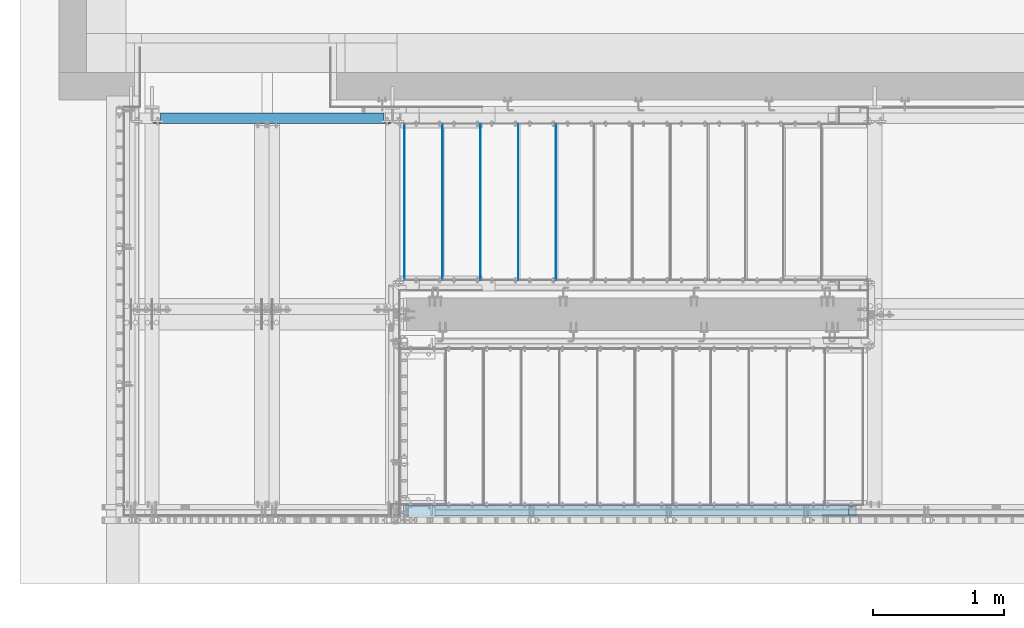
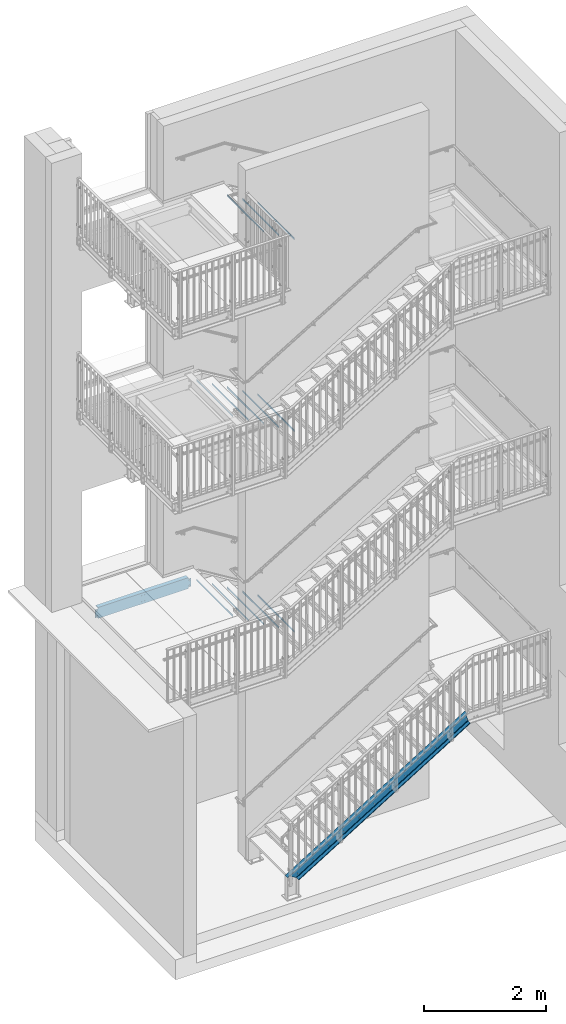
# One storey, part 30 of 410: 14 beams, 1 member, 35 openings.
"""IFC2X3 building model written with IfcOpenShell, lengths in millimetres."""

from ifc_helpers import new_model, entity, si_unit, converted_unit, point, frame, frame_2d, origin, origin_with_axes, origin_2d, origin_2d_with_axis, place, context, project, spatial, circle_curve, line_curve, trimmed, segment, composite_curve, rectangle, circle, u_section, outline, extrude, clip, halfspace, material, element, save


model = new_model("IFC2X3")

# Units and contexts
model_context = context("Model", 3, precision=1e-09, world=origin_with_axes())
ifc_project = project(units=[si_unit("LENGTHUNIT", "METRE", prefix="MILLI"), si_unit("AREAUNIT", "SQUARE_METRE"), si_unit("VOLUMEUNIT", "CUBIC_METRE"), converted_unit("PLANEANGLEUNIT", "DEGREE", entity("IfcPlaneAngleMeasure", 0.01745329), si_unit("PLANEANGLEUNIT", "RADIAN"), dimensions=[0, 0, 0, 0, 0, 0, 0])], contexts=[model_context])

# Site, building, storey
site_placement = place(None, origin_with_axes())
site = spatial("IfcSite", under=ifc_project, at=site_placement, Name="mKR Teilneubau & Sanierung BA1 - Ostfildern", CompositionType="ELEMENT")
building_placement = place(site_placement, origin_with_axes())
building = spatial("IfcBuilding", under=site, at=building_placement, Name="Struktur 1", CompositionType="ELEMENT")
storey_placement = place(building_placement, origin_with_axes())
storey = spatial("IfcBuildingStorey", under=building, at=storey_placement, Name="Default Storey", CompositionType="ELEMENT", Elevation=0.0)

# Beams
ifc_material = material(Name="S235JR")
for number, where, z_axis, x_axis in (
    (1, (-848.5, 18439.999999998, 7170.0), (0.0, 1.0, 0.0), (-1.0, 0.0, 0.0)),
    (2, (-558.5, 18439.999999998, 6995.0), (0.0, 1.0, 0.0), (-1.0, 0.0, 0.0)),
    (3, (-558.5, 18439.999999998, 3150.434783), (0.0, 1.0, 0.0), (-1.0, 0.0, 0.0)),
    (4, (-848.5, 18439.999999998, 3324.3478265), (0.0, 1.0, 0.0), (-1.0, 0.0, 0.0)),
    (5, (-1138.5, 18439.999999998, 3498.26087), (0.0, 1.0, 0.0), (-1.0, 0.0, 0.0)),
    (6, (-1428.5, 18439.999999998, 3672.1739135), (0.0, 1.0, 0.0), (-1.0, 0.0, 0.0)),
    (7, (-1718.5, 18439.999999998, 3846.086957), (0.0, 1.0, 0.0), (-1.0, 0.0, 0.0)),
    (8, (-558.5, 18439.999999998, -874.0), (0.0, 1.0, 0.0), (-1.0, 0.0, 0.0)),
    (9, (-848.5, 18439.999999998, -695.2), (0.0, 1.0, 0.0), (-1.0, 0.0, 0.0)),
    (10, (-1138.5, 18439.999999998, -516.4), (0.0, 1.0, 0.0), (-1.0, 0.0, 0.0)),
    (11, (-1428.5, 18439.999999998, -337.6), (0.0, 1.0, 0.0), (-1.0, 0.0, 0.0)),
    (12, (-1718.5, 18439.999999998, -158.8), (0.0, 1.0, 0.0), (-1.0, 0.0, 0.0)),
    (13, (-1138.5, 18439.999999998, 7345.0), (0.0, 1.0, 0.0), (-1.0, 0.0, 0.0)),
):
    element("IfcBeam", number, at=place(None, frame(where, z_axis=z_axis, x_axis=x_axis)), inside=storey, material=ifc_material, Name="-", ObjectType="-", context=model_context, shape_type="SweptSolid", body=[
        extrude(rectangle(XDim=3.0, YDim=40.0, at=origin_2d()), origin(), (0.0, 0.0, -1.0), 1200.0),
    ])

# Member, openings
member_placement = place(None, frame((1936.296714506, 15498.599999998, -2175.379342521), z_axis=(0.851214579, 0.0, 0.524817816), x_axis=(0.0, -1.0, 0.0)))
member = element("IfcMember", 14, at=member_placement, inside=storey, material=ifc_material, Name="-", ObjectType="-", context=model_context, shape_type="Clipping", body=[
    clip(clip(extrude(u_section(Depth=220.0, FlangeWidth=80.0, WebThickness=9.0, FlangeThickness=12.5, FilletRadius=12.5, EdgeRadius=6.0, FlangeSlope=4.574, at=frame_2d((18.6, 0.0))), origin(), (0.0, 0.0, -1.0), 4493.470065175), halfspace(frame((15498.599999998, -2591.759085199, 467.580855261), z_axis=(0.0, -0.272750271, -0.962084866), x_axis=(1.0, 0.0, 0.0)), True)), halfspace(frame((15498.599999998, -626.459299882, -4521.748255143), z_axis=(0.0, -0.487433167, 0.873160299), x_axis=(-1.0, 0.0, 0.0)), True)),
])
opening_1_placement = place(member_placement, frame((-21.9, 49.652632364, -3033.730112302), z_axis=(1.0, 0.0, 0.0), x_axis=(0.0, 0.524817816, 0.851214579)))
element("IfcOpeningElement", 15, at=opening_1_placement, cuts=member, ObjectType="Opening", context=model_context, shape_type="SweptSolid", body=[
    extrude(circle(Radius=7.001, at=origin_2d_with_axis()), origin(), (0.0, 0.0, 1.0), 10.0),
])
opening_2_placement = place(member_placement, frame((-21.9, 49.652632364, -308.212884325), z_axis=(1.0, 0.0, 0.0), x_axis=(0.0, 0.524817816, 0.851214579)))
element("IfcOpeningElement", 16, at=opening_2_placement, cuts=member, ObjectType="Opening", context=model_context, shape_type="SweptSolid", body=[
    extrude(circle(Radius=7.001, at=origin_2d_with_axis()), origin(), (0.0, 0.0, 1.0), 10.0),
])
opening_3_placement = place(member_placement, frame((-21.9, -44.814574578, -1483.500469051), z_axis=(1.0, 0.0, 0.0), x_axis=(0.0, 0.524817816, 0.851214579)))
element("IfcOpeningElement", 17, at=opening_3_placement, cuts=member, ObjectType="Opening", context=model_context, shape_type="SweptSolid", body=[
    extrude(circle(Radius=7.001, at=origin_2d_with_axis()), origin(), (0.0, 0.0, 1.0), 10.0),
])
opening_4_placement = place(member_placement, frame((-21.9, -44.814574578, -3868.328043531), z_axis=(1.0, 0.0, 0.0), x_axis=(0.0, 0.524817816, 0.851214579)))
element("IfcOpeningElement", 18, at=opening_4_placement, cuts=member, ObjectType="Opening", context=model_context, shape_type="SweptSolid", body=[
    extrude(circle(Radius=7.001, at=origin_2d_with_axis()), origin(), (0.0, 0.0, 1.0), 10.0),
])
opening_5_placement = place(member_placement, frame((-21.9, 49.652632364, -3715.109419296), z_axis=(1.0, 0.0, 0.0), x_axis=(0.0, 0.524817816, 0.851214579)))
element("IfcOpeningElement", 19, at=opening_5_placement, cuts=member, ObjectType="Opening", context=model_context, shape_type="SweptSolid", body=[
    extrude(circle(Radius=7.001, at=origin_2d_with_axis()), origin(), (0.0, 0.0, 1.0), 10.0),
])
opening_6_placement = place(member_placement, frame((-21.9, -44.814574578, -3527.638390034), z_axis=(1.0, 0.0, 0.0), x_axis=(0.0, 0.524817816, 0.851214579)))
element("IfcOpeningElement", 20, at=opening_6_placement, cuts=member, ObjectType="Opening", context=model_context, shape_type="SweptSolid", body=[
    extrude(circle(Radius=7.001, at=origin_2d_with_axis()), origin(), (0.0, 0.0, 1.0), 10.0),
])
opening_7_placement = place(member_placement, frame((-21.9, 49.652632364, -3374.419765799), z_axis=(1.0, 0.0, 0.0), x_axis=(0.0, 0.524817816, 0.851214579)))
element("IfcOpeningElement", 21, at=opening_7_placement, cuts=member, ObjectType="Opening", context=model_context, shape_type="SweptSolid", body=[
    extrude(circle(Radius=7.001, at=origin_2d_with_axis()), origin(), (0.0, 0.0, 1.0), 10.0),
])
opening_8_placement = place(member_placement, frame((-21.9, -44.814574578, -1142.810815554), z_axis=(1.0, 0.0, 0.0), x_axis=(0.0, 0.524817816, 0.851214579)))
element("IfcOpeningElement", 22, at=opening_8_placement, cuts=member, ObjectType="Opening", context=model_context, shape_type="SweptSolid", body=[
    extrude(circle(Radius=7.001, at=origin_2d_with_axis()), origin(), (0.0, 0.0, 1.0), 10.0),
])
opening_9_placement = place(member_placement, frame((-21.9, -44.814574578, -3186.948736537), z_axis=(1.0, 0.0, 0.0), x_axis=(0.0, 0.524817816, 0.851214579)))
element("IfcOpeningElement", 23, at=opening_9_placement, cuts=member, ObjectType="Opening", context=model_context, shape_type="SweptSolid", body=[
    extrude(circle(Radius=7.001, at=origin_2d_with_axis()), origin(), (0.0, 0.0, 1.0), 10.0),
])
opening_10_placement = place(member_placement, frame((-21.9, 49.652632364, -1330.281844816), z_axis=(1.0, 0.0, 0.0), x_axis=(0.0, 0.524817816, 0.851214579)))
element("IfcOpeningElement", 24, at=opening_10_placement, cuts=member, ObjectType="Opening", context=model_context, shape_type="SweptSolid", body=[
    extrude(circle(Radius=7.001, at=origin_2d_with_axis()), origin(), (0.0, 0.0, 1.0), 10.0),
])
opening_11_placement = place(member_placement, frame((-21.9, 49.652632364, -989.592191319), z_axis=(1.0, 0.0, 0.0), x_axis=(0.0, 0.524817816, 0.851214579)))
element("IfcOpeningElement", 25, at=opening_11_placement, cuts=member, ObjectType="Opening", context=model_context, shape_type="SweptSolid", body=[
    extrude(circle(Radius=7.001, at=origin_2d_with_axis()), origin(), (0.0, 0.0, 1.0), 10.0),
])
opening_12_placement = place(member_placement, frame((-21.9, -44.814574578, -802.121162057), z_axis=(1.0, 0.0, 0.0), x_axis=(0.0, 0.524817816, 0.851214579)))
element("IfcOpeningElement", 26, at=opening_12_placement, cuts=member, ObjectType="Opening", context=model_context, shape_type="SweptSolid", body=[
    extrude(circle(Radius=7.001, at=origin_2d_with_axis()), origin(), (0.0, 0.0, 1.0), 10.0),
])
opening_13_placement = place(member_placement, frame((-21.9, 49.652632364, -4055.799072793), z_axis=(1.0, 0.0, 0.0), x_axis=(0.0, 0.524817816, 0.851214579)))
element("IfcOpeningElement", 27, at=opening_13_placement, cuts=member, ObjectType="Opening", context=model_context, shape_type="SweptSolid", body=[
    extrude(circle(Radius=7.001, at=origin_2d_with_axis()), origin(), (0.0, 0.0, 1.0), 10.0),
])
opening_14_placement = place(member_placement, frame((-21.9, 49.652632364, -648.902537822), z_axis=(1.0, 0.0, 0.0), x_axis=(0.0, 0.524817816, 0.851214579)))
element("IfcOpeningElement", 28, at=opening_14_placement, cuts=member, ObjectType="Opening", context=model_context, shape_type="SweptSolid", body=[
    extrude(circle(Radius=7.001, at=origin_2d_with_axis()), origin(), (0.0, 0.0, 1.0), 10.0),
])
opening_15_placement = place(member_placement, frame((-21.9, -44.814574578, -461.43150856), z_axis=(1.0, 0.0, 0.0), x_axis=(0.0, 0.524817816, 0.851214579)))
element("IfcOpeningElement", 29, at=opening_15_placement, cuts=member, ObjectType="Opening", context=model_context, shape_type="SweptSolid", body=[
    extrude(circle(Radius=7.001, at=origin_2d_with_axis()), origin(), (0.0, 0.0, 1.0), 10.0),
])
opening_16_placement = place(member_placement, frame((-21.9, 49.652632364, -2352.350805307), z_axis=(1.0, 0.0, 0.0), x_axis=(0.0, 0.524817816, 0.851214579)))
element("IfcOpeningElement", 30, at=opening_16_placement, cuts=member, ObjectType="Opening", context=model_context, shape_type="SweptSolid", body=[
    extrude(circle(Radius=7.001, at=origin_2d_with_axis()), origin(), (0.0, 0.0, 1.0), 10.0),
])
opening_17_placement = place(member_placement, frame((-21.9, -44.814574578, -2164.879776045), z_axis=(1.0, 0.0, 0.0), x_axis=(0.0, 0.524817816, 0.851214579)))
element("IfcOpeningElement", 31, at=opening_17_placement, cuts=member, ObjectType="Opening", context=model_context, shape_type="SweptSolid", body=[
    extrude(circle(Radius=7.001, at=origin_2d_with_axis()), origin(), (0.0, 0.0, 1.0), 10.0),
])
opening_18_placement = place(member_placement, frame((-21.9, -44.814574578, -2846.25908304), z_axis=(1.0, 0.0, 0.0), x_axis=(0.0, 0.524817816, 0.851214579)))
element("IfcOpeningElement", 32, at=opening_18_placement, cuts=member, ObjectType="Opening", context=model_context, shape_type="SweptSolid", body=[
    extrude(circle(Radius=7.001, at=origin_2d_with_axis()), origin(), (0.0, 0.0, 1.0), 10.0),
])
opening_19_placement = place(member_placement, frame((-21.9, -44.814574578, -2505.569429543), z_axis=(1.0, 0.0, 0.0), x_axis=(0.0, 0.524817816, 0.851214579)))
element("IfcOpeningElement", 33, at=opening_19_placement, cuts=member, ObjectType="Opening", context=model_context, shape_type="SweptSolid", body=[
    extrude(circle(Radius=7.001, at=origin_2d_with_axis()), origin(), (0.0, 0.0, 1.0), 10.0),
])
opening_20_placement = place(member_placement, frame((-21.9, 49.652632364, -2693.040458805), z_axis=(1.0, 0.0, 0.0), x_axis=(0.0, 0.524817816, 0.851214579)))
element("IfcOpeningElement", 34, at=opening_20_placement, cuts=member, ObjectType="Opening", context=model_context, shape_type="SweptSolid", body=[
    extrude(circle(Radius=7.001, at=origin_2d_with_axis()), origin(), (0.0, 0.0, 1.0), 10.0),
])
opening_21_placement = place(member_placement, frame((-21.9, 49.652632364, -2011.66115181), z_axis=(1.0, 0.0, 0.0), x_axis=(0.0, 0.524817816, 0.851214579)))
element("IfcOpeningElement", 35, at=opening_21_placement, cuts=member, ObjectType="Opening", context=model_context, shape_type="SweptSolid", body=[
    extrude(circle(Radius=7.001, at=origin_2d_with_axis()), origin(), (0.0, 0.0, 1.0), 10.0),
])
opening_22_placement = place(member_placement, frame((-21.9, -44.814574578, -1824.190122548), z_axis=(1.0, 0.0, 0.0), x_axis=(0.0, 0.524817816, 0.851214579)))
element("IfcOpeningElement", 36, at=opening_22_placement, cuts=member, ObjectType="Opening", context=model_context, shape_type="SweptSolid", body=[
    extrude(circle(Radius=7.001, at=origin_2d_with_axis()), origin(), (0.0, 0.0, 1.0), 10.0),
])
opening_23_placement = place(member_placement, frame((-21.9, 49.652632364, -1670.971498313), z_axis=(1.0, 0.0, 0.0), x_axis=(0.0, 0.524817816, 0.851214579)))
element("IfcOpeningElement", 37, at=opening_23_placement, cuts=member, ObjectType="Opening", context=model_context, shape_type="SweptSolid", body=[
    extrude(circle(Radius=7.001, at=origin_2d_with_axis()), origin(), (0.0, 0.0, 1.0), 10.0),
])

# Beam, openings
beam_placement = place(None, frame((-1595.901532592, 18461.399999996, -170.0), z_axis=(1.0, 0.0, 0.0), x_axis=(0.0, 1.0, 0.0)))
beam = element("IfcBeam", 38, at=beam_placement, inside=storey, material=ifc_material, Name="-", ObjectType="-", context=model_context, shape_type="Clipping", body=[
    clip(extrude(u_section(Depth=220.0, FlangeWidth=80.0, WebThickness=9.0, FlangeThickness=12.5, FilletRadius=12.5, EdgeRadius=6.0, FlangeSlope=4.574, at=frame_2d((18.6, 0.0))), origin(), (0.0, 0.0, -1.0), 2041.145999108), halfspace(frame((-18461.399999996, 170.0, -227.047999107), z_axis=(0.0, 0.0, -1.0), x_axis=(-1.0, 0.0, 0.0)), True)),
])
opening_24_placement = place(beam_placement, frame((1518.6, 80.0, -274.096999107), z_axis=(-1.0, 0.0, 0.0), x_axis=(0.0, 0.0, 1.0)))
element("IfcOpeningElement", 39, at=opening_24_placement, cuts=beam, ObjectType="Opening", context=model_context, shape_type="SweptSolid", body=[
    extrude(outline(composite_curve([segment(trimmed(line_curve((47.85, 0.0), (0.0, 1.0), 30.8), [point((47.85, 0.0))], [point((47.85, 30.8))], True, "CARTESIAN"), True, "CONTINUOUS"), segment(trimmed(line_curve((47.85, 30.8), (-1.0, 0.0), 52.85), [point((47.85, 30.8))], [point((-5.0, 30.8))], True, "CARTESIAN"), True, "CONTINUOUS"), segment(trimmed(line_curve((-5.0, 30.8), (0.0, -1.0), 25.8), [point((-5.0, 30.8))], [point((-5.0, 5.0))], True, "CARTESIAN"), True, "CONTINUOUS"), segment(trimmed(circle_curve(frame_2d((0.0, 5.0), x_axis=(1.0, 0.0)), 5.0), [point((-5.0, 5.0))], [point((0.0, 0.0))], True, "CARTESIAN"), True, "CONTINUOUS"), segment(trimmed(line_curve((0.0, 0.0), (1.0, 0.0), 47.85), [point((0.0, 0.0))], [point((47.85, 0.0))], True, "CARTESIAN"), True, "CONTINUOUS")], self_intersect=False)), origin(), (0.0, 0.0, 1.0), 3000.0),
])
opening_25_placement = place(beam_placement, frame((-1481.4, -80.0, -274.096999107), z_axis=(1.0, 0.0, 0.0), x_axis=(0.0, 0.0, -1.0)))
element("IfcOpeningElement", 40, at=opening_25_placement, cuts=beam, ObjectType="Opening", context=model_context, shape_type="SweptSolid", body=[
    extrude(outline(composite_curve([segment(trimmed(line_curve((-47.85, 0.0), (0.0, -1.0), 30.8), [point((-47.85, 0.0))], [point((-47.85, -30.8))], True, "CARTESIAN"), True, "CONTINUOUS"), segment(trimmed(line_curve((-47.85, -30.8), (1.0, 0.0), 52.85), [point((-47.85, -30.8))], [point((5.0, -30.8))], True, "CARTESIAN"), True, "CONTINUOUS"), segment(trimmed(line_curve((5.0, -30.8), (0.0, 1.0), 25.8), [point((5.0, -30.8))], [point((5.0, -5.0))], True, "CARTESIAN"), True, "CONTINUOUS"), segment(trimmed(circle_curve(frame_2d((0.0, -5.0), x_axis=(1.0, 0.0)), 5.0), [point((5.0, -5.0))], [point((0.0, 0.0))], True, "CARTESIAN"), True, "CONTINUOUS"), segment(trimmed(line_curve((0.0, 0.0), (-1.0, 0.0), 47.85), [point((0.0, 0.0))], [point((-47.85, 0.0))], True, "CARTESIAN"), True, "CONTINUOUS")], self_intersect=False)), origin(), (0.0, 0.0, 1.0), 3000.0),
])
opening_26_placement = place(beam_placement, frame((-121.5, 110.0, -2041.145999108), z_axis=(1.0, 0.0, 0.0), x_axis=(0.0, 0.0, -1.0)))
element("IfcOpeningElement", 41, at=opening_26_placement, cuts=beam, ObjectType="Opening", context=model_context, shape_type="SweptSolid", body=[
    extrude(outline(composite_curve([segment(trimmed(circle_curve(frame_2d((-47.05, -25.001999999), x_axis=(1.0, 0.0)), 5.0), [point((-52.05, -25.001999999))], [point((-47.05, -30.001999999))], True, "CARTESIAN"), True, "CONTINUOUS"), segment(trimmed(line_curve((-47.05, -30.001999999), (1.0, 0.0), 64.851030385), [point((-47.05, -30.001999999))], [point((17.801030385, -30.001999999))], True, "CARTESIAN"), True, "CONTINUOUS"), segment(trimmed(circle_curve(frame_2d((17.801030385, -25.001999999), x_axis=(1.0, 0.0)), 5.0), [point((17.801030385, -30.001999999))], [point((22.801030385, -25.001999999))], True, "CARTESIAN"), True, "CONTINUOUS"), segment(trimmed(line_curve((22.801030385, -25.001999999), (0.0, 1.0), 39.924723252), [point((22.801030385, -25.001999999))], [point((22.801030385, 14.922723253))], True, "CARTESIAN"), True, "CONTINUOUS"), segment(trimmed(circle_curve(frame_2d((17.801030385, 14.922723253), x_axis=(1.0, 0.0)), 5.0), [point((22.801030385, 14.922723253))], [point((17.801030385, 19.922723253))], True, "CARTESIAN"), True, "CONTINUOUS"), segment(trimmed(line_curve((17.801030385, 19.922723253), (-1.0, 0.0), 64.851030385), [point((17.801030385, 19.922723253))], [point((-47.05, 19.922723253))], True, "CARTESIAN"), True, "CONTINUOUS"), segment(trimmed(circle_curve(frame_2d((-47.05, 14.922723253), x_axis=(1.0, 0.0)), 5.0), [point((-47.05, 19.922723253))], [point((-52.05, 14.922723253))], True, "CARTESIAN"), True, "CONTINUOUS"), segment(trimmed(line_curve((-52.05, 14.922723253), (0.0, -1.0), 39.924723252), [point((-52.05, 14.922723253))], [point((-52.05, -25.001999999))], True, "CARTESIAN"), True, "CONTINUOUS")], self_intersect=False)), origin(), (0.0, 0.0, 1.0), 280.2),
])
opening_27_placement = place(beam_placement, frame((-121.5, 110.0, -2041.145999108), z_axis=(1.0, 0.0, 0.0), x_axis=(0.0, 0.0, -1.0)))
element("IfcOpeningElement", 42, at=opening_27_placement, cuts=beam, ObjectType="Opening", context=model_context, shape_type="SweptSolid", body=[
    extrude(outline(composite_curve([segment(trimmed(circle_curve(frame_2d((-47.05, -243.843114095), x_axis=(1.0, 0.0)), 5.0), [point((-52.05, -243.843114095))], [point((-47.05, -248.843114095))], True, "CARTESIAN"), True, "CONTINUOUS"), segment(trimmed(line_curve((-47.05, -248.843114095), (1.0, 0.0), 75.433305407), [point((-47.05, -248.843114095))], [point((28.383305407, -248.843114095))], True, "CARTESIAN"), True, "CONTINUOUS"), segment(trimmed(circle_curve(frame_2d((28.383305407, -243.843114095), x_axis=(1.0, 0.0)), 5.0), [point((28.383305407, -248.843114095))], [point((33.383305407, -243.843114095))], True, "CARTESIAN"), True, "CONTINUOUS"), segment(trimmed(line_curve((33.383305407, -243.843114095), (0.0, 1.0), 48.844114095), [point((33.383305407, -243.843114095))], [point((33.383305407, -194.999))], True, "CARTESIAN"), True, "CONTINUOUS"), segment(trimmed(circle_curve(frame_2d((28.383305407, -194.999), x_axis=(1.0, 0.0)), 5.0), [point((33.383305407, -194.999))], [point((28.383305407, -189.999))], True, "CARTESIAN"), True, "CONTINUOUS"), segment(trimmed(line_curve((28.383305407, -189.999), (-1.0, 0.0), 75.433305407), [point((28.383305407, -189.999))], [point((-47.05, -189.999))], True, "CARTESIAN"), True, "CONTINUOUS"), segment(trimmed(circle_curve(frame_2d((-47.05, -194.999), x_axis=(1.0, 0.0)), 5.0), [point((-47.05, -189.999))], [point((-52.05, -194.999))], True, "CARTESIAN"), True, "CONTINUOUS"), segment(trimmed(line_curve((-52.05, -194.999), (0.0, -1.0), 48.844114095), [point((-52.05, -194.999))], [point((-52.05, -243.843114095))], True, "CARTESIAN"), True, "CONTINUOUS")], self_intersect=False)), origin(), (0.0, 0.0, 1.0), 280.2),
])
opening_28_placement = place(beam_placement, frame((-11.9, 50.0, -258.046999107), z_axis=(-1.0, 0.0, 0.0), x_axis=(0.0, 0.0, -1.0)))
element("IfcOpeningElement", 43, at=opening_28_placement, cuts=beam, ObjectType="Opening", context=model_context, shape_type="SweptSolid", body=[
    extrude(circle(Radius=9.001, at=frame_2d((0.0, 100.0), x_axis=(1.0, 0.0))), origin(), (0.0, 0.0, 1.0), 10.0),
])
opening_29_placement = place(beam_placement, frame((-11.9, 50.0, -258.046999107), z_axis=(-1.0, 0.0, 0.0), x_axis=(0.0, 0.0, -1.0)))
element("IfcOpeningElement", 44, at=opening_29_placement, cuts=beam, ObjectType="Opening", context=model_context, shape_type="SweptSolid", body=[
    extrude(circle(Radius=9.001, at=origin_2d_with_axis()), origin(), (0.0, 0.0, 1.0), 10.0),
])
opening_30_placement = place(beam_placement, frame((-11.9, -50.0, -2019.147999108), z_axis=(1.0, 0.0, 0.0), x_axis=(0.0, 1.0, 0.0)))
element("IfcOpeningElement", 45, at=opening_30_placement, cuts=beam, ObjectType="Opening", context=model_context, shape_type="SweptSolid", body=[
    extrude(circle(Radius=9.001, at=frame_2d((0.0, 9.001), x_axis=(1.0, 0.0))), origin(), (0.0, 0.0, -1.0), 10.0),
])
opening_31_placement = place(beam_placement, frame((-11.9, 50.0, -2019.147999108), z_axis=(1.0, 0.0, 0.0), x_axis=(0.0, 1.0, 0.0)))
element("IfcOpeningElement", 46, at=opening_31_placement, cuts=beam, ObjectType="Opening", context=model_context, shape_type="SweptSolid", body=[
    extrude(circle(Radius=9.001, at=frame_2d((0.0, 9.001), x_axis=(1.0, 0.0))), origin(), (0.0, 0.0, -1.0), 10.0),
])
opening_32_placement = place(beam_placement, frame((-21.9, 60.000000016, -1111.097999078), z_axis=(-1.0, 0.0, 0.0), x_axis=(0.0, -1.0, 0.0)))
element("IfcOpeningElement", 47, at=opening_32_placement, cuts=beam, ObjectType="Opening", context=model_context, shape_type="SweptSolid", body=[
    extrude(circle(Radius=7.001, at=frame_2d((0.0, 7.001), x_axis=(1.0, 0.0))), origin(), (0.0, 0.0, -1.0), 10.0),
])
opening_33_placement = place(beam_placement, frame((-21.9, 60.000000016, -1171.097999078), z_axis=(-1.0, 0.0, 0.0), x_axis=(0.0, -1.0, 0.0)))
element("IfcOpeningElement", 48, at=opening_33_placement, cuts=beam, ObjectType="Opening", context=model_context, shape_type="SweptSolid", body=[
    extrude(circle(Radius=7.001, at=frame_2d((0.0, 7.001), x_axis=(1.0, 0.0))), origin(), (0.0, 0.0, -1.0), 10.0),
])
opening_34_placement = place(beam_placement, frame((-21.9, -59.999999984, -1111.097999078), z_axis=(-1.0, 0.0, 0.0), x_axis=(0.0, -1.0, 0.0)))
element("IfcOpeningElement", 49, at=opening_34_placement, cuts=beam, ObjectType="Opening", context=model_context, shape_type="SweptSolid", body=[
    extrude(circle(Radius=7.001, at=frame_2d((0.0, 7.001), x_axis=(1.0, 0.0))), origin(), (0.0, 0.0, -1.0), 10.0),
])
opening_35_placement = place(beam_placement, frame((-21.9, -59.999999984, -1171.097999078), z_axis=(-1.0, 0.0, 0.0), x_axis=(0.0, -1.0, 0.0)))
element("IfcOpeningElement", 50, at=opening_35_placement, cuts=beam, ObjectType="Opening", context=model_context, shape_type="SweptSolid", body=[
    extrude(circle(Radius=7.001, at=frame_2d((0.0, 7.001), x_axis=(1.0, 0.0))), origin(), (0.0, 0.0, -1.0), 10.0),
])

save(model, "model.ifc")
